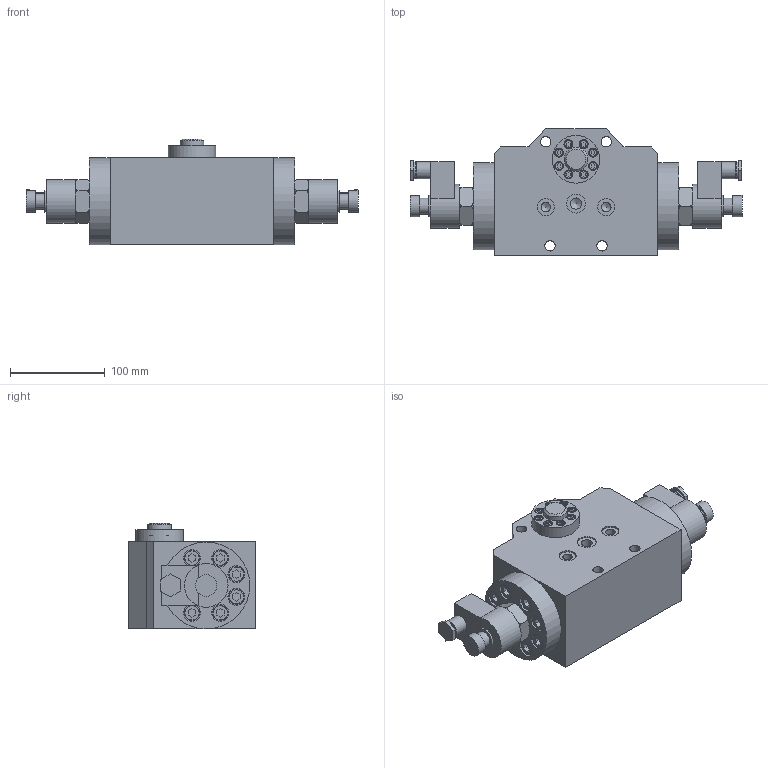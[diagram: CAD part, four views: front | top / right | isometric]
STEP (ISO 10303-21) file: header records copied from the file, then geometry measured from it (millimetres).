
FILE_DESCRIPTION(/* description */ (''),/* implementation_level */ '2;1');
FILE_NAME(/* name */ '数字1.prt.stp',/* time_stamp */ '2023-05-03T14:48:05+08:00',/* author */ (''),/* organization */ (''),/* preprocessor_version */ 'ST-DEVELOPER v16.7',/* originating_system */ 'SIEMENS PLM Software NX 12.0',/* authorisation */ '');
FILE_SCHEMA (('AUTOMOTIVE_DESIGN { 1 0 10303 214 3 1 1 1 }'));
Length unit declared in the file: millimetre
Products named in the file (1): 数字1
Bounding box: 351.03 x 134 x 112 mm (x, y, z)
Volume: 2507509 mm3; surface area: 298098.8 mm2
Topology: 51 solids, 51 shells, 792 faces, 1894 edges, 1255 vertices
Faces by surface type: plane 471, cylinder 197, torus 72, cone 52
Full cylindrical faces by diameter (mm): 4.2 x8, 5 x8, 5.5 x8, 8.5 x24, 9.5 x8, 10 x18, 11 x20, 12 x1, 16 x18, 16.666 x2, 18 x22, 20 x1, 22.666 x4, 25.101 x2, 46.188 x2, 50.299 x1, 92 x2
Entity records: 21823 total; most frequent: CARTESIAN_POINT 4328, DIRECTION 3546, ORIENTED_EDGE 3034, EDGE_CURVE 1517, AXIS2_PLACEMENT_3D 1332, EDGE_LOOP 1198, VERTEX_POINT 1154, LINE 882
